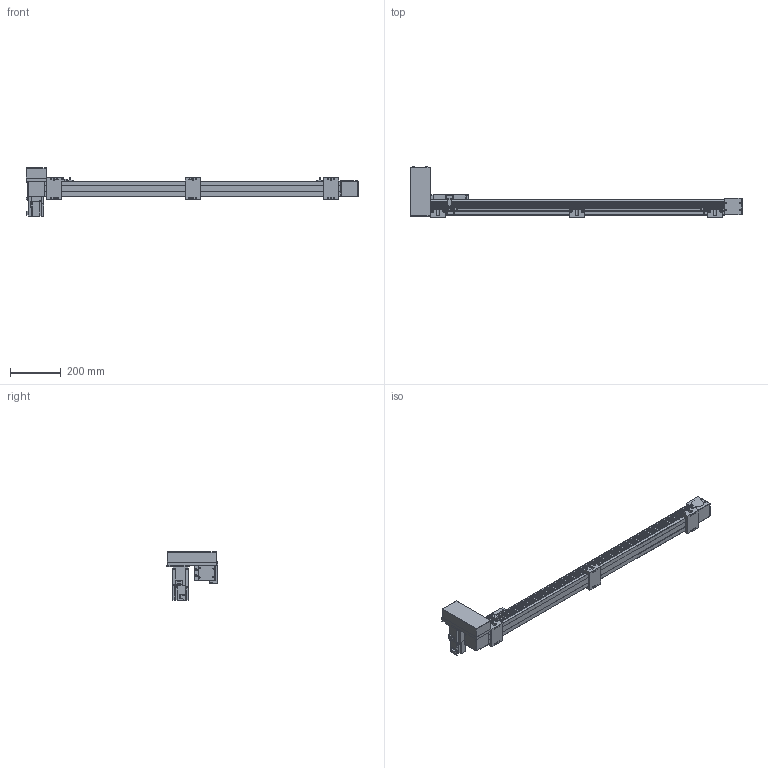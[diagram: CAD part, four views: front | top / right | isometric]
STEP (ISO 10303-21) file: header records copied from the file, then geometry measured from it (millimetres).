
FILE_DESCRIPTION(/* description */ ('STEP AP214'),/* implementation_level */ '2;1');
FILE_NAME(/* name */ 'SK60-P13-S1000-RU-T40-C1-N(0)',/* time_stamp */ '2023-04-06T05:02:50+02:00',/* author */ ('License CC BY-ND 4.0'),/* organization */ ('CADENAS'),/* preprocessor_version */ 'ST-DEVELOPER v19.3',/* originating_system */ 'PARTsolutions',/* authorisation */ ' ');
FILE_SCHEMA (('AUTOMOTIVE_DESIGN {1 0 10303 214 3 1 1}'));
Length unit declared in the file: millimetre
Products named in the file (10): SK60-P13-S1000-RU-T40-C1-N(0); PSC140-sensor; SK60-S450_seat; SK60-S450-BL-C1_slider; SK60_body3; SK60_body6; SK60-BL_body2; T40-p1; SK60-RU_fb; SK60-S1000-RU-C1_body
Assembly tree (17 placements, depth 2):
  SK60-P13-S1000-RU-T40-C1-N(0)
    PSC140-sensor  x3
    SK60-S450_seat  x3
    SK60-S450-BL-C1_slider
    SK60_body3  x3
    SK60_body6  x2
    SK60-BL_body2  x2
    T40-p1
    SK60-RU_fb
    SK60-S1000-RU-C1_body
Bounding box: 1305.5 x 201 x 189.7 mm (x, y, z)
Volume: 5668078.8 mm3; surface area: 718309.1 mm2
Topology: 17 solids, 17 shells, 854 faces, 2146 edges, 1413 vertices
Faces by surface type: plane 548, cylinder 278, cone 26, torus 2
Full cylindrical faces by diameter (mm): 2.8 x3, 3.3 x4, 4 x2, 4.5 x30, 4.6 x3, 4.917 x20, 5 x6, 5.478 x4, 5.5 x23, 6.5 x6, 7 x2, 8 x4, 8.5 x4, 9.988 x4, 10 x12, 14 x1, 47 x3, 50 x2
Entity records: 18663 total; most frequent: DIRECTION 3186, CARTESIAN_POINT 3151, ORIENTED_EDGE 2940, EDGE_CURVE 1470, AXIS2_PLACEMENT_3D 1069, LINE 1048, VECTOR 1048, VERTEX_POINT 1034
